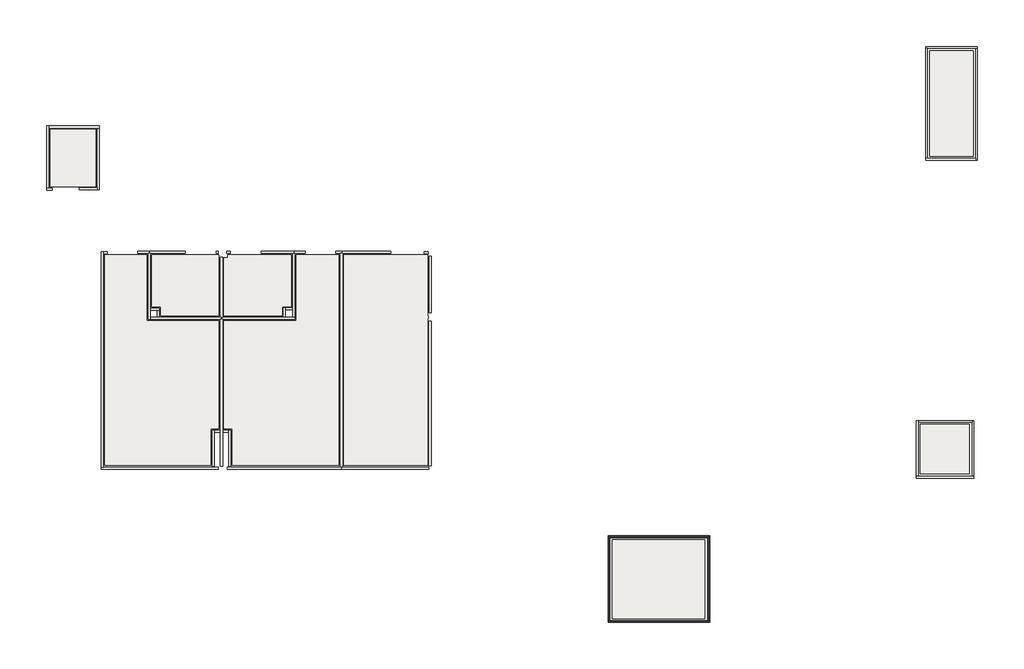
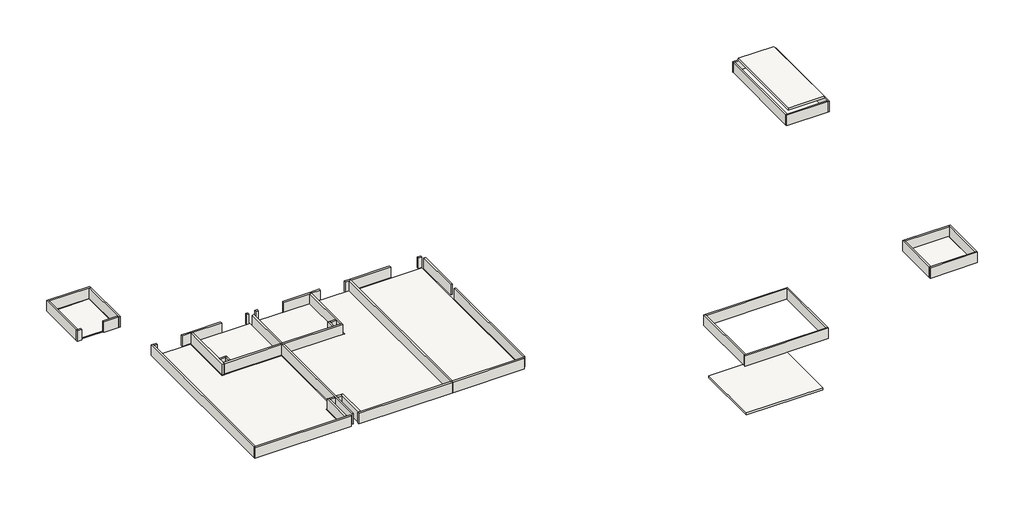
# One storey: 48 walls, 10 slabs.
"""IFC4 building model written with IfcOpenShell, lengths in millimetres."""

import ifcopenshell
import ifcopenshell.guid

model = None  # the IFC model being written
_history = None  # IfcOwnerHistory: only IFC2X3 demands one
_inside = {}  # id of a spatial element -> (the spatial element, [elements in it])
_under = {}  # id of a project, library or spatial element -> (it, [spatial elements below it])
_declared = {}  # id of a project -> (the project, [libraries it declares])
_typed = {}  # id of a type object -> (the type object, [elements of that type])
_made_of = {}  # id of a material, layer set ... -> (it, [elements and type objects made of it])


def new_model(schema):
    """Start an empty IFC model of exactly this schema.

    Asked for "IFC4X3", IfcOpenShell would pick the latest addendum, in which some entities
    have other attributes; the version numbers below select the first issue.
    IFC2X3 requires an IfcOwnerHistory on every rooted entity: one is made here for all.
    """
    global model, _history
    if schema == "IFC4X3":
        model = ifcopenshell.file(schema_version=(4, 3, 0, 0))
    else:
        model = ifcopenshell.file(schema=schema)
    _inside.clear()
    _under.clear()
    _declared.clear()
    _typed.clear()
    _made_of.clear()
    _history = None
    if model.schema == "IFC2X3":
        org = make("IfcOrganization", Name="unknown")
        user = make(
            "IfcPersonAndOrganization",
            ThePerson=make("IfcPerson", FamilyName="unknown"),
            TheOrganization=org,
        )
        app = make(
            "IfcApplication",
            ApplicationDeveloper=org,
            Version="unknown",
            ApplicationFullName="unknown",
            ApplicationIdentifier="unknown",
        )
        _history = make(
            "IfcOwnerHistory",
            OwningUser=user,
            OwningApplication=app,
            ChangeAction="ADDED",
            CreationDate=0,
        )
    return model


def make(cls, **values):
    """One entity of the class cls with the attributes given. An attribute that is None is left unset."""
    return model.create_entity(
        cls, **{name: value for name, value in values.items() if value is not None}
    )


def rooted(cls, **values):
    """An entity with a GlobalId (a new one), such as an element, a storey or a relation."""
    return make(cls, GlobalId=ifcopenshell.guid.new(), OwnerHistory=_history, **values)


def si_unit(unit_type, name, prefix=None):
    """IfcSIUnit, for example si_unit("LENGTHUNIT", "METRE", prefix="MILLI")."""
    return make("IfcSIUnit", UnitType=unit_type, Prefix=prefix, Name=name)


def assignment(units):
    """IfcUnitAssignment: the units of a project."""
    return None if units is None else make("IfcUnitAssignment", Units=units)


def point(xyz):
    """IfcCartesianPoint."""
    return None if xyz is None else make("IfcCartesianPoint", Coordinates=xyz)


def direction(xyz):
    """IfcDirection."""
    return None if xyz is None else make("IfcDirection", DirectionRatios=xyz)


def frame(location, z_axis=None, x_axis=None):
    """IfcAxis2Placement3D, a coordinate frame: its origin and axes. An axis left out is left unset."""
    return make(
        "IfcAxis2Placement3D",
        Location=point(location),
        Axis=direction(z_axis),
        RefDirection=direction(x_axis),
    )


def origin():
    """The frame at (0, 0, 0) with its axes left unset."""
    return frame((0.0, 0.0, 0.0))


def place(relative_to, where):
    """IfcLocalPlacement: puts the frame where relative to a parent placement (None: the world)."""
    return make(
        "IfcLocalPlacement", PlacementRelTo=relative_to, RelativePlacement=where
    )


def context(
    kind, dimensions, precision=None, world=None, true_north=None, identifier=None
):
    """IfcGeometricRepresentationContext, for example the 3D "Model" context."""
    return make(
        "IfcGeometricRepresentationContext",
        ContextIdentifier=identifier,
        ContextType=kind,
        CoordinateSpaceDimension=dimensions,
        Precision=precision,
        WorldCoordinateSystem=world,
        TrueNorth=true_north,
    )


def project(units=None, contexts=None):
    """IfcProject with its units and contexts."""
    return rooted(
        "IfcProject",
        Name="project",
        RepresentationContexts=contexts,
        UnitsInContext=assignment(units),
    )


def spatial(cls, under=None, at=None, **own):
    """A site, building, storey or space (cls), placed at a placement, below another one or the project."""
    s = rooted(cls, ObjectPlacement=at, **own)
    if under is not None:
        _under.setdefault(under.id(), (under, []))[1].append(s)
    return s


def polyline(points):
    """IfcPolyline through the points."""
    return make("IfcPolyline", Points=[point(p) for p in points])


def outline(outer, holes=None, kind="AREA"):
    """IfcArbitraryClosedProfileDef: a profile drawn as a closed curve; with holes, ...WithVoids."""
    if holes is None:
        return make("IfcArbitraryClosedProfileDef", ProfileType=kind, OuterCurve=outer)
    return make(
        "IfcArbitraryProfileDefWithVoids",
        ProfileType=kind,
        OuterCurve=outer,
        InnerCurves=holes,
    )


def extrude(swept, where, along, depth):
    """IfcExtrudedAreaSolid: the profile swept, set in the frame where, extruded along a direction by depth."""
    return make(
        "IfcExtrudedAreaSolid",
        SweptArea=swept,
        Position=where,
        ExtrudedDirection=direction(along),
        Depth=depth,
    )


def faces_of(points, faces, orient=None, outer=None):
    """IfcFace entities. A face is a list of loops; a loop is a list of indices into points, from 0.

    orient and outer hold one flag for each loop. By default every Orientation is true, the
    first loop of a face is its IfcFaceOuterBound and the others are IfcFaceBound.
    """
    made = []
    for i, loops in enumerate(faces):
        bounds = []
        for j, loop in enumerate(loops):
            is_outer = j == 0 if outer is None else outer[i][j]
            bounds.append(
                make(
                    "IfcFaceOuterBound" if is_outer else "IfcFaceBound",
                    Bound=make("IfcPolyLoop", Polygon=[points[k] for k in loop]),
                    Orientation=True if orient is None else orient[i][j],
                )
            )
        made.append(make("IfcFace", Bounds=bounds))
    return made


def faceted_brep(points, faces, orient=None, outer=None, voids=None):
    """IfcFacetedBrep: a solid bounded by flat faces; with voids (closed shells), ...WithVoids."""
    shared = [point(p) for p in points]
    hull = make("IfcClosedShell", CfsFaces=faces_of(shared, faces, orient, outer))
    if voids is None:
        return make("IfcFacetedBrep", Outer=hull)
    return make(
        "IfcFacetedBrepWithVoids",
        Outer=hull,
        Voids=[
            make(cls, CfsFaces=faces_of(shared, fs, o, b)) for cls, fs, o, b in voids
        ],
    )


def shape(context_of_items, identifier, shape_type, items):
    """IfcShapeRepresentation: the items that make up one representation, for example the "Body"."""
    return make(
        "IfcShapeRepresentation",
        ContextOfItems=context_of_items,
        RepresentationIdentifier=identifier,
        RepresentationType=shape_type,
        Items=items,
    )


def made_of(thing, what):
    """Note that an element or type object is made of a material, layer set ...; save() writes the relation."""
    if what is not None:
        _made_of.setdefault(what.id(), (what, []))[1].append(thing)
    return thing


def element(
    cls,
    number,
    at=None,
    inside=None,
    cuts=None,
    type_object=None,
    material=None,
    context=None,
    identifier="Body",
    shape_type=None,
    held_by="IfcProductDefinitionShape",
    body=None,
    shapes=None,
    **own,
):
    """One element of the class cls, such as IfcWall. Its Tag is "e" and its number.

    at: its placement. inside: the storey or other place that contains it. cuts: it is an
    opening in that element (IfcRelVoidsElement). A single representation is given by context,
    identifier, shape_type and body (its items); several are given by shapes. held_by: the class
    of the entity that holds the representations. save() writes the other relations.
    """
    e = rooted(cls, Tag="e%d" % number, ObjectPlacement=at, **own)
    if body is not None:
        shapes = [shape(context, identifier, shape_type, body)]
    if shapes is not None:
        e.Representation = make(held_by, Representations=shapes)
    if inside is not None:
        _inside.setdefault(inside.id(), (inside, []))[1].append(e)
    if cuts is not None:
        rooted(
            "IfcRelVoidsElement", RelatingBuildingElement=cuts, RelatedOpeningElement=e
        )
    if type_object is not None:
        _typed.setdefault(type_object.id(), (type_object, []))[1].append(e)
    return made_of(e, material)


def aggregate(whole, parts):
    """IfcRelAggregates: a whole, such as a stair, and the parts it consists of."""
    return rooted("IfcRelAggregates", RelatingObject=whole, RelatedObjects=parts)


def save(model, path):
    """Write the relations noted so far, then the file.

    IfcRelAggregates (storeys below a building ...), IfcRelContainedInSpatialStructure (elements
    in a storey), IfcRelDefinesByType, IfcRelAssociatesMaterial and IfcRelDeclares: one each for
    every whole, place, type object, material and project.
    """
    for whole, parts in _under.values():
        aggregate(whole, parts)
    for where, things in _inside.values():
        rooted(
            "IfcRelContainedInSpatialStructure",
            RelatedElements=things,
            RelatingStructure=where,
        )
    for kind, things in _typed.values():
        rooted("IfcRelDefinesByType", RelatedObjects=things, RelatingType=kind)
    for what, things in _made_of.values():
        rooted("IfcRelAssociatesMaterial", RelatedObjects=things, RelatingMaterial=what)
    for by, libraries in _declared.values():
        rooted("IfcRelDeclares", RelatingContext=by, RelatedDefinitions=libraries)
    model.write(path)


model = new_model("IFC4")

# Units and contexts
model_context = context("Model", 3, world=origin())
ifc_project = project(units=[si_unit("LENGTHUNIT", "METRE", prefix="MILLI")], contexts=[model_context])

# Site, building, storey
site = spatial("IfcSite", under=ifc_project)
building = spatial("IfcBuilding", under=site)
storey = spatial("IfcBuildingStorey", under=building, Name="PLANTA DE IMPERMEABILIZAÇÃO - 1 PAV.", Elevation=4100.0)

# Slabs
placement = place(None, origin())
element("IfcSlab", 1, ObjectType="Impermeabilização 08 - Áreas frias 2", at=placement, inside=storey, context=model_context, shape_type="SweptSolid", body=[
    extrude(outline(polyline([(5601.5851708, -1905.8410329), (8098.3852715, -1905.8410329), (8098.3852715, -1978.8418218), (8098.3852715, -3617.8418218), (8098.3852715, -3738.1974667), (8113.3797184, -3738.1974667), (8113.3797184, -3795.3257111), (8098.3852715, -3795.3257111), (8098.3852715, -4056.8514218), (8098.3852715, -8187.8257111), (5601.5851708, -8187.8257111), (5601.5851708, -1905.8410329)])), frame((0.0, 0.0, 4035.0), z_axis=(0.0, 0.0, 1.0), x_axis=(1.0, 0.0, 0.0)), (0.0, 0.0, 1.0), 65.0),
])
element("IfcSlab", 2, ObjectType="Impermeabilização 08 - Áreas frias", at=placement, inside=storey, context=model_context, shape_type="SweptSolid", body=[
    extrude(outline(polyline([(3773.8851429, -3880.8410329), (4176.3851429, -3880.8410329), (4176.3851429, -3478.3410329), (4176.3851429, -1905.8410329), (5451.5851708, -1905.8410329), (5451.5851708, -8187.8257111), (2276.3851429, -8187.8257111), (2276.3851429, -7092.8257111), (2026.3851429, -7092.8257111), (2026.3851429, -3880.8410329), (3773.8851429, -3880.8410329)])), frame((0.0, 0.0, 4089.5), z_axis=(0.0, 0.0, 1.0), x_axis=(1.0, 0.0, 0.0)), (0.0, 0.0, 1.0), 53.0),
])
element("IfcSlab", 3, ObjectType="Impermeabilização 08 - Áreas frias", at=placement, inside=storey, context=model_context, shape_type="SweptSolid", body=[
    extrude(outline(polyline([(-273.6148571, -3478.3410329), (-273.6148571, -3880.8410329), (128.8851429, -3880.8410329), (1876.3851429, -3880.8410329), (1876.3851429, -7092.8257111), (1631.3851429, -7092.8257111), (1631.3851429, -8187.8257111), (-1533.6148292, -8187.8257111), (-1533.6148292, -1905.8410329), (-273.6148571, -1905.8410329), (-273.6148571, -3478.3410329)])), frame((0.0, 0.0, 4047.0), z_axis=(0.0, 0.0, 1.0), x_axis=(1.0, 0.0, 0.0)), (0.0, 0.0, 1.0), 53.0),
])
element("IfcSlab", 4, ObjectType="Impermeabilização 08 - Áreas frias", at=placement, inside=storey, context=model_context, shape_type="SweptSolid", body=[
    extrude(outline(polyline([(-123.6148571, -3465.8410329), (-123.6148571, -1905.8410329), (1843.3833533, -1905.8410329), (1876.3851429, -1905.8410329), (1876.3851429, -1986.3418218), (1876.3851429, -3730.8410329), (141.3851429, -3730.8410329), (141.3851429, -3465.8410329), (-123.6148571, -3465.8410329)])), frame((0.0, 0.0, 4102.0), z_axis=(0.0, 0.0, 1.0), x_axis=(1.0, 0.0, 0.0)), (0.0, 0.0, 1.0), 53.0),
])
element("IfcSlab", 5, ObjectType="Impermeabilização 08 - Áreas frias", at=placement, inside=storey, context=model_context, shape_type="SweptSolid", body=[
    extrude(outline(polyline([(3761.3851429, -3730.8410329), (2026.3851429, -3730.8410329), (2026.3851429, -1998.8418218), (2131.8833533, -1998.8418218), (2131.8833533, -1905.8410329), (4026.3851429, -1905.8410329), (4026.3851429, -3465.8410329), (3761.3851429, -3465.8410329), (3761.3851429, -3730.8410329)])), frame((0.0, 0.0, 4099.5), z_axis=(0.0, 0.0, 1.0), x_axis=(1.0, 0.0, 0.0)), (0.0, 0.0, 1.0), 53.0),
])
element("IfcSlab", 6, ObjectType="Impermeabilização 08 - Áreas frias", at=placement, inside=storey, context=model_context, shape_type="SweptSolid", body=[
    extrude(outline(polyline([(-1788.6148292, 1828.6405147), (-1788.6148292, 120.3896127), (-3156.1148292, 120.3896127), (-3156.1148292, 1544.1589671), (-3156.1148292, 1828.6405147), (-2786.2119189, 1828.6405147), (-2571.0213745, 1828.6405147), (-1788.6148292, 1828.6405147)])), frame((0.0, 0.0, 4047.0), z_axis=(0.0, 0.0, 1.0), x_axis=(1.0, 0.0, 0.0)), (0.0, 0.0, 1.0), 53.0),
])
element("IfcSlab", 7, ObjectType="Impermeabilização 01 - Lajes de cobertura ou terraço", at=placement, inside=storey, context=model_context, shape_type="SweptSolid", body=[
    extrude(outline(polyline([(24238.8851706, -6963.3410331), (24238.8851706, -8428.3410327), (22773.885171, -8428.3410327), (22773.885171, -6963.3410331), (24238.8851706, -6963.3410331)])), frame((0.0, 0.0, 2645.0), z_axis=(0.0, 0.0, 1.0), x_axis=(1.0, 0.0, 0.0)), (0.0, 0.0, 1.0), 75.0),
])
element("IfcSlab", 8, ObjectType="Impermeabilização 01 - Lajes de cobertura ou terraço", at=placement, inside=storey, context=model_context, shape_type="SweptSolid", body=[
    extrude(outline(polyline([(24353.8851706, 4176.6589669), (24353.8851706, 1031.6589673), (23058.885171, 1031.6589673), (23058.885171, 4176.6589669), (24353.8851706, 4176.6589669)])), frame((0.0, 0.0, 2645.0), z_axis=(0.0, 0.0, 1.0), x_axis=(1.0, 0.0, 0.0)), (0.0, 0.0, 1.0), 75.0),
])
element("IfcSlab", 9, ObjectType="Impermeabilização 01 - Lajes de cobertura ou terraço", at=placement, inside=storey, context=model_context, shape_type="SweptSolid", body=[
    extrude(outline(polyline([(16351.4562197, -10395.7375708), (16351.4562197, -12751.3884774), (13590.3878232, -12751.3884774), (13590.3878232, -10395.7375708), (16351.4562197, -10395.7375708)])), frame((0.0, 0.0, 3125.0), z_axis=(0.0, 0.0, 1.0), x_axis=(1.0, 0.0, 0.0)), (0.0, 0.0, 1.0), 75.0),
])
element("IfcSlab", 10, ObjectType="Impermeabilização 01 - Lajes de cobertura ou terraço", at=placement, inside=storey, context=model_context, shape_type="SweptSolid", body=[
    extrude(outline(polyline([(24353.8851547, 4176.6589942), (24353.8851547, 1031.6589945), (23058.8851551, 1031.6589945), (23058.8851551, 4176.6589942), (24353.8851547, 4176.6589942)])), frame((0.0, 0.0, 3125.0), z_axis=(0.0, 0.0, 1.0), x_axis=(1.0, 0.0, 0.0)), (0.0, 0.0, 1.0), 75.0),
])

# Walls
element("IfcWall", 11, ObjectType="Impermeabilização 08 - Áreas frias", at=placement, inside=storey, context=model_context, shape_type="Brep", body=[
    faceted_brep([(-3091.1148292, 73.647991, 4100.0), (-3196.1148292, 73.647991, 4100.0), (-3261.1148292, 73.647991, 4100.0), (-3261.1148292, 73.647991, 4500.0), (-3196.1148292, 73.647991, 4500.0), (-3091.1148292, 73.647991, 4500.0), (-3091.1148292, 8.647991, 4100.0), (-3091.1148292, 8.647991, 4500.0), (-3261.1148292, 8.647991, 4500.0), (-3261.1148292, 8.647991, 4100.0)], [[[0, 1, 2, 3, 4, 5]], [[6, 7, 8, 9]], [[2, 1, 0, 6, 9]], [[5, 4, 3, 8, 7]], [[0, 5, 7, 6]], [[3, 2, 9, 8]]]),
])
element("IfcWall", 12, ObjectType="Impermeabilização 08 - Áreas frias", at=placement, inside=storey, context=model_context, shape_type="Brep", body=[
    faceted_brep([(-3196.1148292, 73.647991, 4100.0), (-3196.1148292, 1863.6405147, 4100.0), (-3196.1148292, 1928.6405147, 4100.0), (-3196.1148292, 1928.6405147, 4500.0), (-3196.1148292, 1863.6405147, 4500.0), (-3196.1148292, 73.647991, 4500.0), (-3261.1148292, 73.647991, 4100.0), (-3261.1148292, 73.647991, 4500.0), (-3261.1148292, 1928.6405147, 4500.0), (-3261.1148292, 1928.6405147, 4100.0)], [[[0, 1, 2, 3, 4, 5]], [[6, 7, 8, 9]], [[2, 1, 0, 6, 9]], [[5, 4, 3, 8, 7]], [[0, 5, 7, 6]], [[3, 2, 9, 8]]]),
])
element("IfcWall", 13, ObjectType="Impermeabilização 08 - Áreas frias", at=placement, inside=storey, context=model_context, shape_type="Brep", body=[
    faceted_brep([(-3196.1148292, 1863.6405147, 4100.0), (-1756.1148292, 1863.6405147, 4100.0), (-1691.1148292, 1863.6405147, 4100.0), (-1691.1148292, 1863.6405147, 4500.0), (-1756.1148292, 1863.6405147, 4500.0), (-3196.1148292, 1863.6405147, 4500.0), (-3196.1148292, 1928.6405147, 4100.0), (-3196.1148292, 1928.6405147, 4500.0), (-1691.1148292, 1928.6405147, 4500.0), (-1691.1148292, 1928.6405147, 4100.0)], [[[0, 1, 2, 3, 4, 5]], [[6, 7, 8, 9]], [[2, 1, 0, 6, 9]], [[5, 4, 3, 8, 7]], [[0, 5, 7, 6]], [[3, 2, 9, 8]]]),
])
element("IfcWall", 14, ObjectType="Impermeabilização 08 - Áreas frias", at=placement, inside=storey, context=model_context, shape_type="Brep", body=[
    faceted_brep([(-1756.1148292, 1863.6405147, 4100.0), (-1756.1148292, 85.3896127, 4100.0), (-1756.1148292, 20.3896127, 4100.0), (-1756.1148292, 20.3896127, 4500.0), (-1756.1148292, 85.3896127, 4500.0), (-1756.1148292, 1863.6405147, 4500.0), (-1691.1148292, 1863.6405147, 4100.0), (-1691.1148292, 1863.6405147, 4500.0), (-1691.1148292, 20.3896127, 4500.0), (-1691.1148292, 20.3896127, 4100.0)], [[[0, 1, 2, 3, 4, 5]], [[6, 7, 8, 9]], [[2, 1, 0, 6, 9]], [[5, 4, 3, 8, 7]], [[0, 5, 7, 6]], [[3, 2, 9, 8]]]),
])
element("IfcWall", 15, ObjectType="Impermeabilização 08 - Áreas frias", at=placement, inside=storey, context=model_context, shape_type="SweptSolid", body=[
    extrude(outline(polyline([(-2291.1148292, 85.3896127), (-1756.1148292, 85.3896127), (-1756.1148292, 20.3896127), (-2291.1148292, 20.3896127), (-2291.1148292, 85.3896127)])), frame((0.0, 0.0, 4100.0), z_axis=(0.0, 0.0, 1.0), x_axis=(1.0, 0.0, 0.0)), (0.0, 0.0, 1.0), 400.0),
])
element("IfcWall", 16, ObjectType="Impermeabilização 08 - Áreas frias", at=placement, inside=storey, context=model_context, shape_type="Brep", body=[
    faceted_brep([(1856.3833533, -8235.3257111, 4100.0), (-1571.1148292, -8235.3257111, 4100.0), (-1636.1148292, -8235.3257111, 4100.0), (-1636.1148292, -8235.3257111, 4500.0), (-1571.1148292, -8235.3257111, 4500.0), (1856.3833533, -8235.3257111, 4500.0), (1856.3833533, -8300.3257111, 4100.0), (1856.3833533, -8300.3257111, 4500.0), (-1636.1148292, -8300.3257111, 4500.0), (-1636.1148292, -8300.3257111, 4100.0)], [[[0, 1, 2, 3, 4, 5]], [[6, 7, 8, 9]], [[2, 1, 0, 6, 9]], [[5, 4, 3, 8, 7]], [[0, 5, 7, 6]], [[3, 2, 9, 8]]]),
])
element("IfcWall", 17, ObjectType="Impermeabilização 08 - Áreas frias", at=placement, inside=storey, context=model_context, shape_type="Brep", body=[
    faceted_brep([(-1571.1148292, -8235.3257111, 4100.0), (-1571.1148292, -1880.3257111, 4100.0), (-1571.1148292, -1815.3257111, 4100.0), (-1571.1148292, -1815.3257111, 4500.0), (-1571.1148292, -1880.3257111, 4500.0), (-1571.1148292, -8235.3257111, 4500.0), (-1636.1148292, -8235.3257111, 4100.0), (-1636.1148292, -8235.3257111, 4500.0), (-1636.1148292, -1815.3257111, 4500.0), (-1636.1148292, -1815.3257111, 4100.0)], [[[0, 1, 2, 3, 4, 5]], [[6, 7, 8, 9]], [[2, 1, 0, 6, 9]], [[5, 4, 3, 8, 7]], [[0, 5, 7, 6]], [[3, 2, 9, 8]]]),
])
element("IfcWall", 18, ObjectType="Impermeabilização 08 - Áreas frias", at=placement, inside=storey, context=model_context, shape_type="SweptSolid", body=[
    extrude(outline(polyline([(-1448.814885, -1880.3257111), (-1571.1148292, -1880.3257111), (-1571.1148292, -1815.3257111), (-1448.814885, -1815.3257111), (-1448.814885, -1880.3257111)])), frame((0.0, 0.0, 4100.0), z_axis=(0.0, 0.0, 1.0), x_axis=(1.0, 0.0, 0.0)), (0.0, 0.0, 1.0), 400.0),
])
element("IfcWall", 19, ObjectType="Impermeabilização 08 - Áreas frias", at=placement, inside=storey, context=model_context, shape_type="Brep", body=[
    faceted_brep([(-548.814885, -1870.8410329, 4100.0), (-231.1148571, -1870.8410329, 4100.0), (-198.6148571, -1870.8410329, 4100.0), (-198.6148571, -1870.8410329, 4500.0), (-231.1148571, -1870.8410329, 4500.0), (-548.814885, -1870.8410329, 4500.0), (-548.814885, -1805.8410329, 4100.0), (-548.814885, -1805.8410329, 4500.0), (-198.6148571, -1805.8410329, 4500.0), (-198.6148571, -1805.8410329, 4100.0)], [[[0, 1, 2, 3, 4, 5]], [[6, 7, 8, 9]], [[2, 1, 0, 6, 9]], [[3, 2, 9, 8]], [[5, 4, 3, 8, 7]], [[0, 5, 7, 6]]]),
])
element("IfcWall", 20, ObjectType="Impermeabilização 08 - Áreas frias", at=placement, inside=storey, context=model_context, shape_type="Brep", body=[
    faceted_brep([(-231.1148571, -1870.8410329, 4100.0), (-231.1148571, -3838.3410329, 4100.0), (-231.1148571, -3838.3410329, 4500.0), (-231.1148571, -1870.8410329, 4500.0), (-166.1148571, -1870.8410329, 4100.0), (-166.1148571, -1870.8410329, 4500.0), (-166.1148571, -3773.3410329, 4500.0), (-166.1148571, -3838.3410329, 4500.0), (-166.1148571, -3838.3410329, 4100.0), (-166.1148571, -3773.3410329, 4100.0), (-198.6148571, -1870.8410329, 4100.0), (-198.6148571, -1870.8410329, 4500.0)], [[[0, 1, 2, 3]], [[4, 5, 6, 7, 8, 9]], [[1, 0, 10, 4, 9, 8]], [[3, 2, 7, 6, 5, 11]], [[0, 3, 11, 5, 4, 10]], [[2, 1, 8, 7]]]),
])
element("IfcWall", 21, ObjectType="Impermeabilização 08 - Áreas frias", at=placement, inside=storey, context=model_context, shape_type="Brep", body=[
    faceted_brep([(-166.1148571, -3838.3410329, 4100.0), (1918.8851429, -3838.3410329, 4100.0), (1951.3851429, -3838.3410329, 4100.0), (1951.3851429, -3838.3410329, 4500.0), (1918.8851429, -3838.3410329, 4500.0), (-166.1148571, -3838.3410329, 4500.0), (-166.1148571, -3773.3410329, 4100.0), (-166.1148571, -3773.3410329, 4500.0), (1918.8851429, -3773.3410329, 4500.0), (1951.3851429, -3773.3410329, 4500.0), (1951.3851429, -3773.3410329, 4100.0), (1918.8851429, -3773.3410329, 4100.0)], [[[0, 1, 2, 3, 4, 5]], [[6, 7, 8, 9, 10, 11]], [[2, 1, 0, 6, 11, 10]], [[3, 2, 10, 9]], [[5, 4, 3, 9, 8, 7]], [[0, 5, 7, 6]]]),
])
element("IfcWall", 22, ObjectType="Impermeabilização 08 - Áreas frias", at=placement, inside=storey, context=model_context, shape_type="Brep", body=[
    faceted_brep([(4133.8851429, -3773.3410329, 4100.0), (4133.8851429, -1868.3410329, 4100.0), (4133.8851429, -1868.3410329, 4500.0), (4133.8851429, -3773.3410329, 4500.0), (4068.8851429, -3773.3410329, 4100.0), (4068.8851429, -3773.3410329, 4500.0), (4068.8851429, -1868.3410329, 4500.0), (4068.8851429, -1868.3410329, 4100.0), (4101.3851429, -1868.3410329, 4100.0), (4101.3851429, -1868.3410329, 4500.0)], [[[0, 1, 2, 3]], [[4, 5, 6, 7]], [[1, 0, 4, 7, 8]], [[3, 2, 9, 6, 5]], [[0, 3, 5, 4]], [[2, 1, 8, 7, 6, 9]]]),
])
element("IfcWall", 23, ObjectType="Impermeabilização 08 - Áreas frias", at=placement, inside=storey, context=model_context, shape_type="Brep", body=[
    faceted_brep([(4451.5851708, -1803.3410329, 4100.0), (4101.3851429, -1803.3410329, 4100.0), (4101.3851429, -1803.3410329, 4500.0), (4451.5851708, -1803.3410329, 4500.0), (4451.5851708, -1868.3410329, 4100.0), (4451.5851708, -1868.3410329, 4500.0), (4133.8851429, -1868.3410329, 4500.0), (4101.3851429, -1868.3410329, 4500.0), (4101.3851429, -1868.3410329, 4100.0), (4133.8851429, -1868.3410329, 4100.0)], [[[0, 1, 2, 3]], [[4, 5, 6, 7, 8, 9]], [[1, 0, 4, 9, 8]], [[2, 1, 8, 7]], [[3, 2, 7, 6, 5]], [[0, 3, 5, 4]]]),
])
element("IfcWall", 24, ObjectType="Impermeabilização 08 - Áreas frias", at=placement, inside=storey, context=model_context, shape_type="SweptSolid", body=[
    extrude(outline(polyline([(1793.3833533, -1805.8410329), (1858.3833533, -1805.8410329), (1858.3833533, -1870.8410329), (1793.3833533, -1870.8410329), (1793.3833533, -1805.8410329)])), frame((0.0, 0.0, 4100.0), z_axis=(0.0, 0.0, 1.0), x_axis=(1.0, 0.0, 0.0)), (0.0, 0.0, 1.0), 400.0),
])
element("IfcWall", 25, ObjectType="Impermeabilização 08 - Áreas frias", at=placement, inside=storey, context=model_context, shape_type="SweptSolid", body=[
    extrude(outline(polyline([(2211.3851429, -1868.3418218), (2109.3833533, -1868.3418218), (2109.3833533, -1803.3418218), (2211.3851429, -1803.3418218), (2211.3851429, -1868.3418218)])), frame((0.0, 0.0, 4100.0), z_axis=(0.0, 0.0, 1.0), x_axis=(1.0, 0.0, 0.0)), (0.0, 0.0, 1.0), 400.0),
])
element("IfcWall", 26, ObjectType="Impermeabilização 08 - Áreas frias", at=placement, inside=storey, context=model_context, shape_type="Brep", body=[
    faceted_brep([(1918.8851429, -1986.3418218, 4100.0), (1918.8851429, -3773.3410329, 4100.0), (1918.8851429, -3773.3410329, 4500.0), (1918.8851429, -1986.3418218, 4500.0), (1983.8851429, -1986.3418218, 4100.0), (1983.8851429, -1986.3418218, 4500.0), (1983.8851429, -3773.3410329, 4500.0), (1983.8851429, -3773.3410329, 4100.0), (1951.3851429, -3773.3410329, 4100.0), (1951.3851429, -3773.3410329, 4500.0)], [[[0, 1, 2, 3]], [[4, 5, 6, 7]], [[1, 0, 4, 7, 8]], [[3, 2, 9, 6, 5]], [[0, 3, 5, 4]], [[2, 1, 8, 7, 6, 9]]]),
])
element("IfcWall", 27, ObjectType="Impermeabilização 08 - Áreas frias", at=placement, inside=storey, context=model_context, shape_type="Brep", body=[
    faceted_brep([(2126.3833533, -8300.3257111, 4100.0), (5526.5851708, -8300.3257111, 4100.0), (5526.5851708, -8300.3257111, 4500.0), (2126.3833533, -8300.3257111, 4500.0), (2126.3833533, -8235.3257111, 4100.0), (2126.3833533, -8235.3257111, 4500.0), (5494.0851708, -8235.3257111, 4500.0), (5526.5851708, -8235.3257111, 4500.0), (5526.5851708, -8235.3257111, 4100.0), (5494.0851708, -8235.3257111, 4100.0)], [[[0, 1, 2, 3]], [[4, 5, 6, 7, 8, 9]], [[1, 0, 4, 9, 8]], [[2, 1, 8, 7]], [[3, 2, 7, 6, 5]], [[0, 3, 5, 4]]]),
])
element("IfcWall", 28, ObjectType="Impermeabilização 08 - Áreas frias", at=placement, inside=storey, context=model_context, shape_type="Brep", body=[
    faceted_brep([(5494.0851708, -1870.8410329, 4100.0), (5494.0851708, -8235.3257111, 4100.0), (5494.0851708, -8235.3257111, 4500.0), (5494.0851708, -1870.8410329, 4500.0), (5559.0851708, -1870.8410329, 4100.0), (5559.0851708, -1870.8410329, 4500.0), (5559.0851708, -8235.3257111, 4500.0), (5559.0851708, -8235.3257111, 4100.0), (5536.5851708, -1870.8410329, 4100.0), (5526.5851708, -8235.3257111, 4100.0), (5526.5851708, -8235.3257111, 4500.0), (5536.5851708, -1870.8410329, 4500.0)], [[[0, 1, 2, 3]], [[4, 5, 6, 7]], [[1, 0, 8, 4, 7, 9]], [[3, 2, 10, 6, 5, 11]], [[2, 1, 9, 7, 6, 10]], [[0, 3, 11, 5, 4, 8]]]),
])
element("IfcWall", 29, ObjectType="Impermeabilização 08 - Áreas frias", at=placement, inside=storey, context=model_context, shape_type="Brep", body=[
    faceted_brep([(5351.5851708, -1870.8410329, 4100.0), (5494.0851708, -1870.8410329, 4100.0), (5536.5851708, -1870.8410329, 4100.0), (5536.5851708, -1870.8410329, 4500.0), (5494.0851708, -1870.8410329, 4500.0), (5351.5851708, -1870.8410329, 4500.0), (5351.5851708, -1805.8410329, 4100.0), (5351.5851708, -1805.8410329, 4500.0), (5536.5851708, -1805.8410329, 4500.0), (5536.5851708, -1805.8410329, 4100.0)], [[[0, 1, 2, 3, 4, 5]], [[6, 7, 8, 9]], [[2, 1, 0, 6, 9]], [[3, 2, 9, 8]], [[5, 4, 3, 8, 7]], [[0, 5, 7, 6]]]),
])
element("IfcWall", 30, ObjectType="Impermeabilização 08 - Áreas frias", at=placement, inside=storey, context=model_context, shape_type="SweptSolid", body=[
    extrude(outline(polyline([(8116.3851429, -1880.8410329), (7991.3851708, -1880.8410329), (7991.3851708, -1815.8410329), (8116.3851429, -1815.8410329), (8116.3851429, -1880.8410329)])), frame((0.0, 0.0, 4100.0), z_axis=(0.0, 0.0, 1.0), x_axis=(1.0, 0.0, 0.0)), (0.0, 0.0, 1.0), 400.0),
])
element("IfcWall", 31, ObjectType="Impermeabilização 08 - Áreas frias", at=placement, inside=storey, context=model_context, shape_type="SweptSolid", body=[
    extrude(outline(polyline([(8198.3852715, -3883.8418218), (8198.3852715, -8200.3257111), (8133.3852715, -8200.3257111), (8133.3852715, -3883.8418218), (8198.3852715, -3883.8418218)])), frame((0.0, 0.0, 4100.0), z_axis=(0.0, 0.0, 1.0), x_axis=(1.0, 0.0, 0.0)), (0.0, 0.0, 1.0), 400.0),
])
element("IfcWall", 32, ObjectType="Impermeabilização 08 - Áreas frias", at=placement, inside=storey, context=model_context, shape_type="SweptSolid", body=[
    extrude(outline(polyline([(8207.1343124, -1958.8418218), (8207.1343124, -3637.8418218), (8142.1343124, -3637.8418218), (8142.1343124, -1958.8418218), (8207.1343124, -1958.8418218)])), frame((0.0, 0.0, 4100.0), z_axis=(0.0, 0.0, 1.0), x_axis=(1.0, 0.0, 0.0)), (0.0, 0.0, 1.0), 400.0),
])
element("IfcWall", 33, ObjectType="Impermeabilização 12 - Coberturas expostas sem trânsito de pedestres", at=placement, inside=storey, context=model_context, shape_type="Brep", body=[
    faceted_brep([(22935.8851708, 4243.6589671, 2645.0), (22986.8851708, 4243.6589671, 2645.0), (24425.8851708, 4243.6589671, 2645.0), (24476.8851708, 4243.6589671, 2645.0), (24476.8851708, 4243.6589671, 3045.0), (24425.8851708, 4243.6589671, 3045.0), (22986.8851708, 4243.6589671, 3045.0), (22935.8851708, 4243.6589671, 3045.0), (22935.8851708, 4294.6589671, 2645.0), (22935.8851708, 4294.6589671, 3045.0), (24476.8851708, 4294.6589671, 3045.0), (24476.8851708, 4294.6589671, 2645.0)], [[[0, 1, 2, 3, 4, 5, 6, 7]], [[8, 9, 10, 11]], [[3, 2, 1, 0, 8, 11]], [[7, 6, 5, 4, 10, 9]], [[4, 3, 11, 10]], [[0, 7, 9, 8]]]),
])
element("IfcWall", 34, ObjectType="Impermeabilização 12 - Coberturas expostas sem trânsito de pedestres", at=placement, inside=storey, context=model_context, shape_type="Brep", body=[
    faceted_brep([(24425.8851708, 4243.6589671, 2645.0), (24425.8851708, 959.6589671, 2645.0), (24425.8851708, 908.6589671, 2645.0), (24425.8851708, 908.6589671, 3045.0), (24425.8851708, 959.6589671, 3045.0), (24425.8851708, 4243.6589671, 3045.0), (24476.8851708, 4243.6589671, 2645.0), (24476.8851708, 4243.6589671, 3045.0), (24476.8851708, 908.6589671, 3045.0), (24476.8851708, 908.6589671, 2645.0)], [[[0, 1, 2, 3, 4, 5]], [[6, 7, 8, 9]], [[2, 1, 0, 6, 9]], [[5, 4, 3, 8, 7]], [[0, 5, 7, 6]], [[3, 2, 9, 8]]]),
])
element("IfcWall", 35, ObjectType="Impermeabilização 12 - Coberturas expostas sem trânsito de pedestres", at=placement, inside=storey, context=model_context, shape_type="Brep", body=[
    faceted_brep([(24425.8851708, 959.6589671, 2645.0), (22986.8851708, 959.6589671, 2645.0), (22935.8851708, 959.6589671, 2645.0), (22935.8851708, 959.6589671, 3045.0), (22986.8851708, 959.6589671, 3045.0), (24425.8851708, 959.6589671, 3045.0), (24425.8851708, 908.6589671, 2645.0), (24425.8851708, 908.6589671, 3045.0), (22935.8851708, 908.6589671, 3045.0), (22935.8851708, 908.6589671, 2645.0)], [[[0, 1, 2, 3, 4, 5]], [[6, 7, 8, 9]], [[2, 1, 0, 6, 9]], [[5, 4, 3, 8, 7]], [[0, 5, 7, 6]], [[3, 2, 9, 8]]]),
])
element("IfcWall", 36, ObjectType="Impermeabilização 12 - Coberturas expostas sem trânsito de pedestres", at=placement, inside=storey, context=model_context, shape_type="SweptSolid", body=[
    extrude(outline(polyline([(22986.8851708, 4243.6589671), (22986.8851708, 959.6589671), (22935.8851708, 959.6589671), (22935.8851708, 4243.6589671), (22986.8851708, 4243.6589671)])), frame((0.0, 0.0, 2645.0), z_axis=(0.0, 0.0, 1.0), x_axis=(1.0, 0.0, 0.0)), (0.0, 0.0, 1.0), 400.0),
])
element("IfcWall", 37, ObjectType="Impermeabilização 12 - Coberturas expostas sem trânsito de pedestres", at=placement, inside=storey, context=model_context, shape_type="Brep", body=[
    faceted_brep([(22655.0939396, -6852.1515362, 2645.0), (22655.0939396, -8512.1515362, 2645.0), (22655.0939396, -8512.1515362, 3045.0), (22655.0939396, -6852.1515362, 3045.0), (22706.0939396, -6852.1515362, 2645.0), (22706.0939396, -6852.1515362, 3045.0), (22706.0939396, -6903.1515362, 3045.0), (22706.0939396, -8512.1515362, 3045.0), (22706.0939396, -8512.1515362, 2645.0), (22706.0939396, -6903.1515362, 2645.0)], [[[0, 1, 2, 3]], [[4, 5, 6, 7, 8, 9]], [[1, 0, 4, 9, 8]], [[3, 2, 7, 6, 5]], [[0, 3, 5, 4]], [[2, 1, 8, 7]]]),
])
element("IfcWall", 38, ObjectType="Impermeabilização 12 - Coberturas expostas sem trânsito de pedestres", at=placement, inside=storey, context=model_context, shape_type="Brep", body=[
    faceted_brep([(22655.0939396, -8563.1515362, 2645.0023276), (24366.0939396, -8563.1515362, 2645.0023276), (24366.0939396, -8563.1515362, 3045.0023276), (22655.0939396, -8563.1515362, 3045.0023276), (22655.0939396, -8512.1515362, 2645.0023276), (22655.0939396, -8512.1515362, 3045.0023276), (22706.0939396, -8512.1515362, 3045.0023276), (24315.0939396, -8512.1515362, 3045.0023276), (24366.0939396, -8512.1515362, 3045.0023276), (24366.0939396, -8512.1515362, 2645.0023276), (24315.0939396, -8512.1515362, 2645.0023276), (22706.0939396, -8512.1515362, 2645.0023276)], [[[0, 1, 2, 3]], [[4, 5, 6, 7, 8, 9, 10, 11]], [[1, 0, 4, 11, 10, 9]], [[3, 2, 8, 7, 6, 5]], [[0, 3, 5, 4]], [[2, 1, 9, 8]]]),
])
element("IfcWall", 39, ObjectType="Impermeabilização 12 - Coberturas expostas sem trânsito de pedestres", at=placement, inside=storey, context=model_context, shape_type="Brep", body=[
    faceted_brep([(24366.0939396, -8512.1515362, 2645.0), (24366.0939396, -6852.1515362, 2645.0), (24366.0939396, -6852.1515362, 3045.0), (24366.0939396, -8512.1515362, 3045.0), (24315.0939396, -8512.1515362, 2645.0), (24315.0939396, -8512.1515362, 3045.0), (24315.0939396, -6903.1515362, 3045.0), (24315.0939396, -6852.1515362, 3045.0), (24315.0939396, -6852.1515362, 2645.0), (24315.0939396, -6903.1515362, 2645.0)], [[[0, 1, 2, 3]], [[4, 5, 6, 7, 8, 9]], [[1, 0, 4, 9, 8]], [[3, 2, 7, 6, 5]], [[2, 1, 8, 7]], [[0, 3, 5, 4]]]),
])
element("IfcWall", 40, ObjectType="Impermeabilização 12 - Coberturas expostas sem trânsito de pedestres", at=placement, inside=storey, context=model_context, shape_type="SweptSolid", body=[
    extrude(outline(polyline([(22706.0939396, -6852.1515362), (24315.0939396, -6852.1515362), (24315.0939396, -6903.1515362), (22706.0939396, -6903.1515362), (22706.0939396, -6852.1515362)])), frame((0.0, 0.0, 2645.0), z_axis=(0.0, 0.0, 1.0), x_axis=(1.0, 0.0, 0.0)), (0.0, 0.0, 1.0), 400.0),
])
element("IfcWall", 41, ObjectType="Impermeabilização 08 - Áreas frias", at=placement, inside=storey, context=model_context, shape_type="Brep", body=[
    faceted_brep([(5526.5851708, -8300.3257111, 4100.0), (8126.3833533, -8300.3257111, 4100.0), (8126.3833533, -8300.3257111, 4500.0), (5526.5851708, -8300.3257111, 4500.0), (5526.5851708, -8235.3257111, 4100.0), (5526.5851708, -8235.3257111, 4500.0), (5559.0851708, -8235.3257111, 4500.0), (8126.3833533, -8235.3257111, 4500.0), (8126.3833533, -8235.3257111, 4100.0), (5559.0851708, -8235.3257111, 4100.0)], [[[0, 1, 2, 3]], [[4, 5, 6, 7, 8, 9]], [[1, 0, 4, 9, 8]], [[2, 1, 8, 7]], [[3, 2, 7, 6, 5]], [[0, 3, 5, 4]]]),
])
element("IfcWall", 42, ObjectType="Impermeabilização 08 - Áreas frias", at=placement, inside=storey, context=model_context, shape_type="SweptSolid", body=[
    extrude(outline(polyline([(6991.3851708, -1870.8410329), (5536.5851708, -1870.8410329), (5536.5851708, -1805.8410329), (6991.3851708, -1805.8410329), (6991.3851708, -1870.8410329)])), frame((0.0, 0.0, 4100.0), z_axis=(0.0, 0.0, 1.0), x_axis=(1.0, 0.0, 0.0)), (0.0, 0.0, 1.0), 400.0),
])
element("IfcWall", 43, ObjectType="Impermeabilização 08 - Áreas frias", at=placement, inside=storey, context=model_context, shape_type="Brep", body=[
    faceted_brep([(1918.8851429, -3838.3410329, 4100.0), (1918.8851429, -8212.8257111, 4100.0), (1918.8851429, -8212.8257111, 4500.0), (1918.8851429, -3838.3410329, 4500.0), (1983.8851429, -3838.3410329, 4100.0), (1983.8851429, -3838.3410329, 4500.0), (1983.8851429, -8212.8257111, 4500.0), (1983.8851429, -8212.8257111, 4100.0), (1951.3851429, -3838.3410329, 4100.0), (1951.3851429, -3838.3410329, 4500.0)], [[[0, 1, 2, 3]], [[4, 5, 6, 7]], [[1, 0, 8, 4, 7]], [[2, 1, 7, 6]], [[3, 2, 6, 5, 9]], [[0, 3, 9, 5, 4, 8]]]),
])
element("IfcWall", 44, ObjectType="Impermeabilização 08 - Áreas frias", at=placement, inside=storey, context=model_context, shape_type="Brep", body=[
    faceted_brep([(1951.3851429, -3838.3410329, 4100.0), (1983.8851429, -3838.3410329, 4100.0), (4133.8851429, -3838.3410329, 4100.0), (4133.8851429, -3838.3410329, 4500.0), (1983.8851429, -3838.3410329, 4500.0), (1951.3851429, -3838.3410329, 4500.0), (1951.3851429, -3773.3410329, 4100.0), (1951.3851429, -3773.3410329, 4500.0), (1983.8851429, -3773.3410329, 4500.0), (4068.8851429, -3773.3410329, 4500.0), (4133.8851429, -3773.3410329, 4500.0), (4133.8851429, -3773.3410329, 4100.0), (4068.8851429, -3773.3410329, 4100.0), (1983.8851429, -3773.3410329, 4100.0)], [[[0, 1, 2, 3, 4, 5]], [[6, 7, 8, 9, 10, 11, 12, 13]], [[2, 1, 0, 6, 13, 12, 11]], [[5, 4, 3, 10, 9, 8, 7]], [[0, 5, 7, 6]], [[3, 2, 11, 10]]]),
])
element("IfcWall", 45, ObjectType="Impermeabilização 08 - Áreas frias", at=placement, inside=storey, context=model_context, shape_type="Brep", body=[
    faceted_brep([(4101.3851429, -1803.3410329, 4100.0), (3131.3851429, -1803.3410329, 4100.0), (3131.3851429, -1803.3410329, 4500.0), (4101.3851429, -1803.3410329, 4500.0), (4101.3851429, -1868.3410329, 4100.0), (4101.3851429, -1868.3410329, 4500.0), (4068.8851429, -1868.3410329, 4500.0), (3131.3851429, -1868.3410329, 4500.0), (3131.3851429, -1868.3410329, 4100.0), (4068.8851429, -1868.3410329, 4100.0)], [[[0, 1, 2, 3]], [[4, 5, 6, 7, 8, 9]], [[1, 0, 4, 9, 8]], [[2, 1, 8, 7]], [[3, 2, 7, 6, 5]], [[0, 3, 5, 4]]]),
])
element("IfcWall", 46, ObjectType="Impermeabilização 08 - Áreas frias", at=placement, inside=storey, context=model_context, shape_type="Brep", body=[
    faceted_brep([(-198.6148571, -1870.8410329, 4100.0), (-166.1148571, -1870.8410329, 4100.0), (876.3851429, -1870.8410329, 4100.0), (876.3851429, -1870.8410329, 4500.0), (-166.1148571, -1870.8410329, 4500.0), (-198.6148571, -1870.8410329, 4500.0), (-198.6148571, -1805.8410329, 4100.0), (-198.6148571, -1805.8410329, 4500.0), (876.3851429, -1805.8410329, 4500.0), (876.3851429, -1805.8410329, 4100.0)], [[[0, 1, 2, 3, 4, 5]], [[6, 7, 8, 9]], [[2, 1, 0, 6, 9]], [[3, 2, 9, 8]], [[5, 4, 3, 8, 7]], [[0, 5, 7, 6]]]),
])
element("IfcWall", 47, ObjectType="Impermeabilização 08 - Áreas frias", at=placement, inside=storey, context=model_context, shape_type="Brep", body=[
    faceted_brep([(1733.8851429, -8212.8257111, 4100.0), (1733.8851429, -7200.3257111, 4100.0), (1733.8851429, -7135.3257111, 4100.0), (1733.8851429, -7135.3257111, 4500.0), (1733.8851429, -7200.3257111, 4500.0), (1733.8851429, -8212.8257111, 4500.0), (1668.8851429, -8212.8257111, 4100.0), (1668.8851429, -8212.8257111, 4500.0), (1668.8851429, -7135.3257111, 4500.0), (1668.8851429, -7135.3257111, 4100.0)], [[[0, 1, 2, 3, 4, 5]], [[6, 7, 8, 9]], [[2, 1, 0, 6, 9]], [[5, 4, 3, 8, 7]], [[0, 5, 7, 6]], [[3, 2, 9, 8]]]),
])
element("IfcWall", 48, ObjectType="Impermeabilização 08 - Áreas frias", at=placement, inside=storey, context=model_context, shape_type="SweptSolid", body=[
    extrude(outline(polyline([(1906.3851429, -7200.3257111), (1733.8851429, -7200.3257111), (1733.8851429, -7135.3257111), (1906.3851429, -7135.3257111), (1906.3851429, -7200.3257111)])), frame((0.0, 0.0, 4100.0), z_axis=(0.0, 0.0, 1.0), x_axis=(1.0, 0.0, 0.0)), (0.0, 0.0, 1.0), 400.0),
])
element("IfcWall", 49, ObjectType="Impermeabilização 08 - Áreas frias", at=placement, inside=storey, context=model_context, shape_type="Brep", body=[
    faceted_brep([(2226.3851429, -8212.8257111, 4100.0), (2226.3851429, -7135.3257111, 4100.0), (2226.3851429, -7135.3257111, 4500.0), (2226.3851429, -8212.8257111, 4500.0), (2161.3851429, -8212.8257111, 4100.0), (2161.3851429, -8212.8257111, 4500.0), (2161.3851429, -7200.3257111, 4500.0), (2161.3851429, -7135.3257111, 4500.0), (2161.3851429, -7135.3257111, 4100.0), (2161.3851429, -7200.3257111, 4100.0)], [[[0, 1, 2, 3]], [[4, 5, 6, 7, 8, 9]], [[1, 0, 4, 9, 8]], [[3, 2, 7, 6, 5]], [[0, 3, 5, 4]], [[2, 1, 8, 7]]]),
])
element("IfcWall", 50, ObjectType="Impermeabilização 08 - Áreas frias", at=placement, inside=storey, context=model_context, shape_type="SweptSolid", body=[
    extrude(outline(polyline([(1996.3851429, -7135.3257111), (2161.3851429, -7135.3257111), (2161.3851429, -7200.3257111), (1996.3851429, -7200.3257111), (1996.3851429, -7135.3257111)])), frame((0.0, 0.0, 4100.0), z_axis=(0.0, 0.0, 1.0), x_axis=(1.0, 0.0, 0.0)), (0.0, 0.0, 1.0), 400.0),
])
element("IfcWall", 51, ObjectType="Impermeabilização 08 - Áreas frias", at=placement, inside=storey, context=model_context, shape_type="Brep", body=[
    faceted_brep([(-153.6148571, -3568.3410329, 4100.0), (38.8851429, -3568.3410329, 4100.0), (103.8851429, -3568.3410329, 4100.0), (103.8851429, -3568.3410329, 4500.0), (38.8851429, -3568.3410329, 4500.0), (-153.6148571, -3568.3410329, 4500.0), (-153.6148571, -3503.3410329, 4100.0), (-153.6148571, -3503.3410329, 4500.0), (103.8851429, -3503.3410329, 4500.0), (103.8851429, -3503.3410329, 4100.0)], [[[0, 1, 2, 3, 4, 5]], [[6, 7, 8, 9]], [[2, 1, 0, 6, 9]], [[5, 4, 3, 8, 7]], [[0, 5, 7, 6]], [[3, 2, 9, 8]]]),
])
element("IfcWall", 52, ObjectType="Impermeabilização 08 - Áreas frias", at=placement, inside=storey, context=model_context, shape_type="SweptSolid", body=[
    extrude(outline(polyline([(38.8851429, -3760.8410329), (38.8851429, -3568.3410329), (103.8851429, -3568.3410329), (103.8851429, -3760.8410329), (38.8851429, -3760.8410329)])), frame((0.0, 0.0, 4100.0), z_axis=(0.0, 0.0, 1.0), x_axis=(1.0, 0.0, 0.0)), (0.0, 0.0, 1.0), 400.0),
])
element("IfcWall", 53, ObjectType="Impermeabilização 08 - Áreas frias", at=placement, inside=storey, context=model_context, shape_type="Brep", body=[
    faceted_brep([(3851.3851429, -3760.8410329, 4100.0), (3851.3851429, -3553.3410329, 4100.0), (3851.3851429, -3488.3410329, 4100.0), (3851.3851429, -3488.3410329, 4500.0), (3851.3851429, -3553.3410329, 4500.0), (3851.3851429, -3760.8410329, 4500.0), (3786.3851429, -3760.8410329, 4100.0), (3786.3851429, -3760.8410329, 4500.0), (3786.3851429, -3488.3410329, 4500.0), (3786.3851429, -3488.3410329, 4100.0)], [[[0, 1, 2, 3, 4, 5]], [[6, 7, 8, 9]], [[2, 1, 0, 6, 9]], [[5, 4, 3, 8, 7]], [[0, 5, 7, 6]], [[3, 2, 9, 8]]]),
])
element("IfcWall", 54, ObjectType="Impermeabilização 08 - Áreas frias", at=placement, inside=storey, context=model_context, shape_type="SweptSolid", body=[
    extrude(outline(polyline([(4056.3851429, -3553.3410329), (3851.3851429, -3553.3410329), (3851.3851429, -3488.3410329), (4056.3851429, -3488.3410329), (4056.3851429, -3553.3410329)])), frame((0.0, 0.0, 4100.0), z_axis=(0.0, 0.0, 1.0), x_axis=(1.0, 0.0, 0.0)), (0.0, 0.0, 1.0), 400.0),
])
element("IfcWall", 55, ObjectType="Impermeabilização 12 - Coberturas expostas sem trânsito de pedestres", at=placement, inside=storey, context=model_context, shape_type="Brep", body=[
    faceted_brep([(13472.0530529, -10287.8584661, 5100.0), (13472.0530529, -12807.8584661, 5100.0), (13472.0530529, -12807.8584661, 5500.0), (13472.0530529, -10287.8584661, 5500.0), (13523.0530529, -10287.8584661, 5100.0), (13523.0530529, -10287.8584661, 5500.0), (13523.0530529, -10338.8584661, 5500.0), (13523.0530529, -12807.8584661, 5500.0), (13523.0530529, -12807.8584661, 5100.0), (13523.0530529, -10338.8584661, 5100.0)], [[[0, 1, 2, 3]], [[4, 5, 6, 7, 8, 9]], [[1, 0, 4, 9, 8]], [[3, 2, 7, 6, 5]], [[0, 3, 5, 4]], [[2, 1, 8, 7]]]),
])
element("IfcWall", 56, ObjectType="Impermeabilização 12 - Coberturas expostas sem trânsito de pedestres", at=placement, inside=storey, context=model_context, shape_type="Brep", body=[
    faceted_brep([(13472.0530529, -12858.8584661, 5100.0), (16494.0530529, -12858.8584661, 5100.0), (16494.0530529, -12858.8584661, 5500.0), (13472.0530529, -12858.8584661, 5500.0), (13472.0530529, -12807.8584661, 5100.0), (13472.0530529, -12807.8584661, 5500.0), (13523.0530529, -12807.8584661, 5500.0), (16443.0530529, -12807.8584661, 5500.0), (16494.0530529, -12807.8584661, 5500.0), (16494.0530529, -12807.8584661, 5100.0), (16443.0530529, -12807.8584661, 5100.0), (13523.0530529, -12807.8584661, 5100.0)], [[[0, 1, 2, 3]], [[4, 5, 6, 7, 8, 9, 10, 11]], [[1, 0, 4, 11, 10, 9]], [[3, 2, 8, 7, 6, 5]], [[0, 3, 5, 4]], [[2, 1, 9, 8]]]),
])
element("IfcWall", 57, ObjectType="Impermeabilização 12 - Coberturas expostas sem trânsito de pedestres", at=placement, inside=storey, context=model_context, shape_type="Brep", body=[
    faceted_brep([(16494.0530529, -12807.8584661, 5100.0), (16494.0530529, -10287.8584661, 5100.0), (16494.0530529, -10287.8584661, 5500.0), (16494.0530529, -12807.8584661, 5500.0), (16443.0530529, -12807.8584661, 5100.0), (16443.0530529, -12807.8584661, 5500.0), (16443.0530529, -10338.8584661, 5500.0), (16443.0530529, -10287.8584661, 5500.0), (16443.0530529, -10287.8584661, 5100.0), (16443.0530529, -10338.8584661, 5100.0)], [[[0, 1, 2, 3]], [[4, 5, 6, 7, 8, 9]], [[1, 0, 4, 9, 8]], [[3, 2, 7, 6, 5]], [[2, 1, 8, 7]], [[0, 3, 5, 4]]]),
])
element("IfcWall", 58, ObjectType="Impermeabilização 12 - Coberturas expostas sem trânsito de pedestres", at=placement, inside=storey, context=model_context, shape_type="SweptSolid", body=[
    extrude(outline(polyline([(13523.0530529, -10287.8584661), (16443.0530529, -10287.8584661), (16443.0530529, -10338.8584661), (13523.0530529, -10338.8584661), (13523.0530529, -10287.8584661)])), frame((0.0, 0.0, 5100.0), z_axis=(0.0, 0.0, 1.0), x_axis=(1.0, 0.0, 0.0)), (0.0, 0.0, 1.0), 400.0),
])

save(model, "model.ifc")
